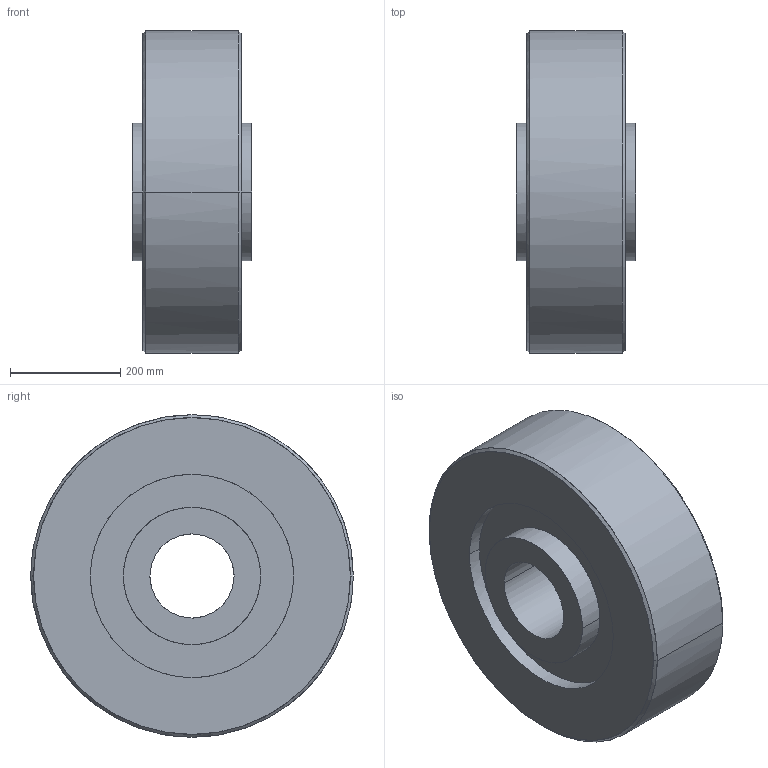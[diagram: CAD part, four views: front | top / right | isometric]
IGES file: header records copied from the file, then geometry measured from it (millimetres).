
Global section: native system: Kubotek KeyCreator; preprocessor: KCM Version 1.1.1442.0; author: KeyCreator User; organization: Self; date: 20170713.013938; units: inch
Bounding box: 215.9 x 584.2 x 584.2 mm (x, y, z)
Surface area: 1046998.2 mm2 (no closed solid volume)
Topology: 0 solids, 0 shells, 22 faces, 144 edges, 144 vertices
Faces by surface type: bspline 22
